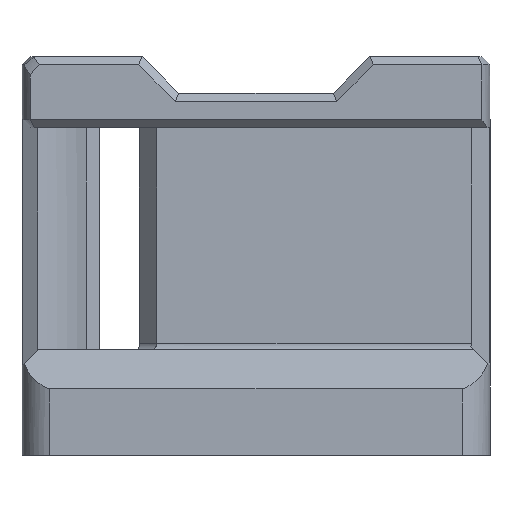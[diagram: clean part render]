
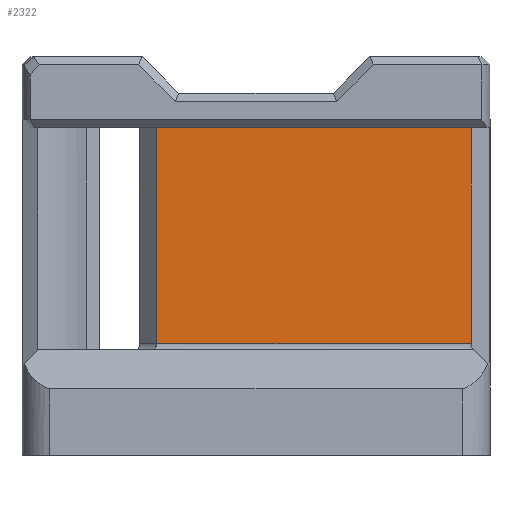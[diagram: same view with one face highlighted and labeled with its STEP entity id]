
A CAD part, left-side view. The second image highlights one B-rep face of the part: STEP entity #2322.
In plain terms, the highlighted planar face has unit normal (-1, 0, 0).
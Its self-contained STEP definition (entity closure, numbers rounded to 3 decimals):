
#42=ELLIPSE('',#2471,0.993,0.75);
#282=FACE_OUTER_BOUND('',#421,.T.);
#421=EDGE_LOOP('',(#2012,#2013,#2014,#2015,#2016));
#516=LINE('',#3609,#750);
#551=LINE('',#3693,#785);
#625=LINE('',#3920,#859);
#663=LINE('',#4090,#897);
#750=VECTOR('',#2733,10.);
#785=VECTOR('',#2804,10.);
#859=VECTOR('',#2976,1.25);
#897=VECTOR('',#3128,10.);
#994=VERTEX_POINT('',#3606);
#995=VERTEX_POINT('',#3608);
#1026=VERTEX_POINT('',#3692);
#1080=VERTEX_POINT('',#3870);
#1093=VERTEX_POINT('',#3918);
#1233=EDGE_CURVE('',#995,#994,#516,.T.);
#1275=EDGE_CURVE('',#994,#1026,#551,.F.);
#1361=EDGE_CURVE('',#1026,#1080,#42,.F.);
#1377=EDGE_CURVE('',#1093,#1080,#625,.T.);
#1439=EDGE_CURVE('',#1093,#995,#663,.T.);
#2012=ORIENTED_EDGE('',*,*,#1275,.T.);
#2013=ORIENTED_EDGE('',*,*,#1361,.T.);
#2014=ORIENTED_EDGE('',*,*,#1377,.F.);
#2015=ORIENTED_EDGE('',*,*,#1439,.T.);
#2016=ORIENTED_EDGE('',*,*,#1233,.T.);
#2208=PLANE('',#2535);
#2322=ADVANCED_FACE('',(#282),#2208,.T.);
#2471=AXIS2_PLACEMENT_3D('',#3871,#2953,#2954);
#2535=AXIS2_PLACEMENT_3D('',#4091,#3129,#3130);
#2733=DIRECTION('',(0.,1.,0.));
#2804=DIRECTION('',(0.,0.,1.));
#2953=DIRECTION('center_axis',(-1.,0.,0.));
#2954=DIRECTION('ref_axis',(0.,-1.,0.));
#2976=DIRECTION('',(0.,1.,0.));
#3128=DIRECTION('',(0.,0.,1.));
#3129=DIRECTION('center_axis',(-1.,0.,0.));
#3130=DIRECTION('ref_axis',(0.,0.,1.));
#3606=CARTESIAN_POINT('',(20.325,12.19,45.25));
#3608=CARTESIAN_POINT('',(20.325,-26.459,45.25));
#3609=CARTESIAN_POINT('',(20.325,-3.517,45.25));
#3692=CARTESIAN_POINT('',(20.325,12.19,18.75));
#3693=CARTESIAN_POINT('',(20.325,12.19,22.6));
#3870=CARTESIAN_POINT('',(20.325,12.19,18.745));
#3871=CARTESIAN_POINT('Origin',(20.325,13.183,18.75));
#3918=CARTESIAN_POINT('',(20.325,-26.459,18.745));
#3920=CARTESIAN_POINT('',(20.325,0.,18.745));
#4090=CARTESIAN_POINT('',(20.325,-26.459,13.8));
#4091=CARTESIAN_POINT('Origin',(20.325,-7.034,22.6));
